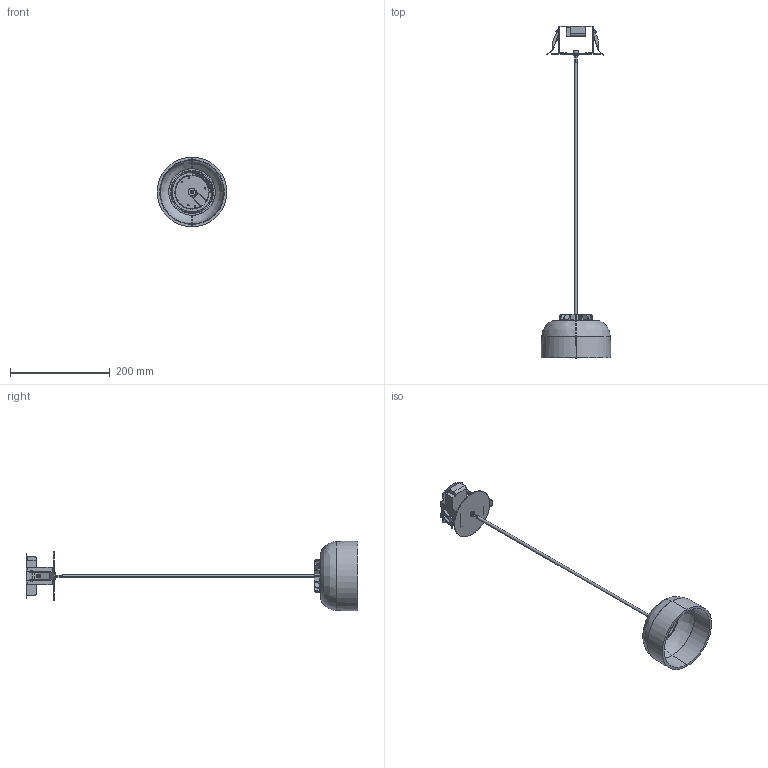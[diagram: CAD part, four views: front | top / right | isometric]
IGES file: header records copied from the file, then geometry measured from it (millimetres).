
Start section: SolidWorks IGES file using analytic representation for surfaces
Global section: file name: C:\Users\berta.gumma\OneDrive - santa &cole\Desktop\HeadHat Bowl L florón empotrado.IGS; native system: SolidWorks 2021; preprocessor: SolidWorks 2021; author: berta.gumma; date: 230904.092331; units: millimetre
Bounding box: 140 x 667.16 x 140 mm (x, y, z)
Surface area: 155598 mm2 (no closed solid volume)
Topology: 0 solids, 0 shells, 765 faces, 9850 edges, 9840 vertices
Faces by surface type: bspline 531, revolution 234
